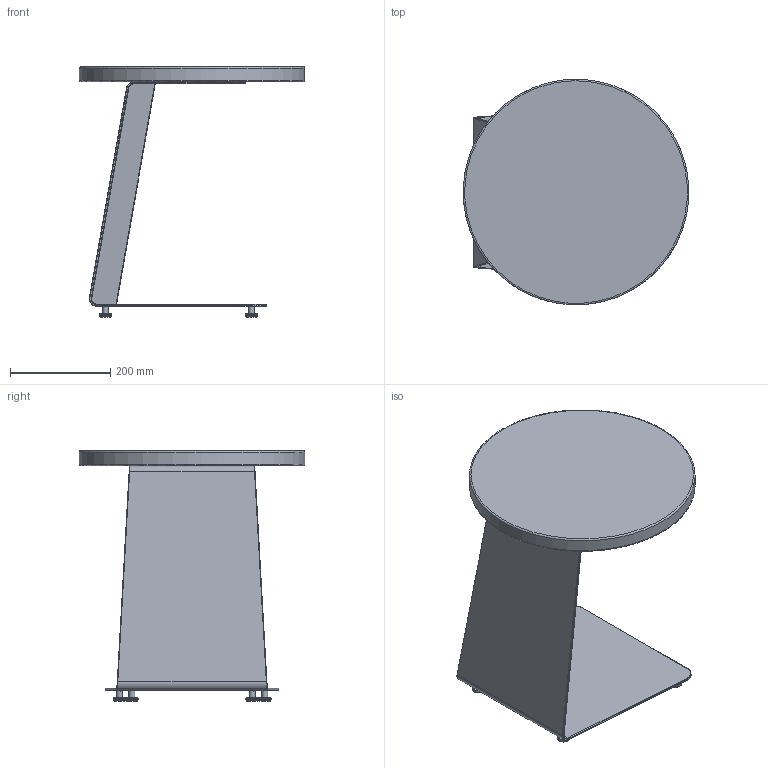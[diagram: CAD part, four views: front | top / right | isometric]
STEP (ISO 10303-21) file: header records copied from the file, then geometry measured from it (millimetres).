
FILE_DESCRIPTION(/* description */ (''),/* implementation_level */ '2;1');
FILE_NAME(/* name */ 'kinoshita_abord_at120',/* time_stamp */ '2025-07-23T13:14:38+09:00',/* author */ (''),/* organization */ (''),/* preprocessor_version */ 'ST-DEVELOPER v16.5',/* originating_system */ '',/* authorisation */ '');
FILE_SCHEMA (('AUTOMOTIVE_DESIGN'));
Length unit declared in the file: millimetre
Products named in the file (1): Document
Bounding box: 449.51 x 449.72 x 500 mm (x, y, z)
Volume: 6247320.5 mm3; surface area: 1009316.4 mm2
Topology: 10 solids, 10 shells, 126 faces, 268 edges, 154 vertices
Faces by surface type: bspline 114, plane 12
Entity records: 9500 total; most frequent: CARTESIAN_POINT 8030, ORIENTED_EDGE 520, EDGE_CURVE 260, VERTEX_POINT 154, EDGE_LOOP 140, ADVANCED_FACE 126, FACE_OUTER_BOUND 126, B_SPLINE_CURVE_WITH_KNOTS 40
